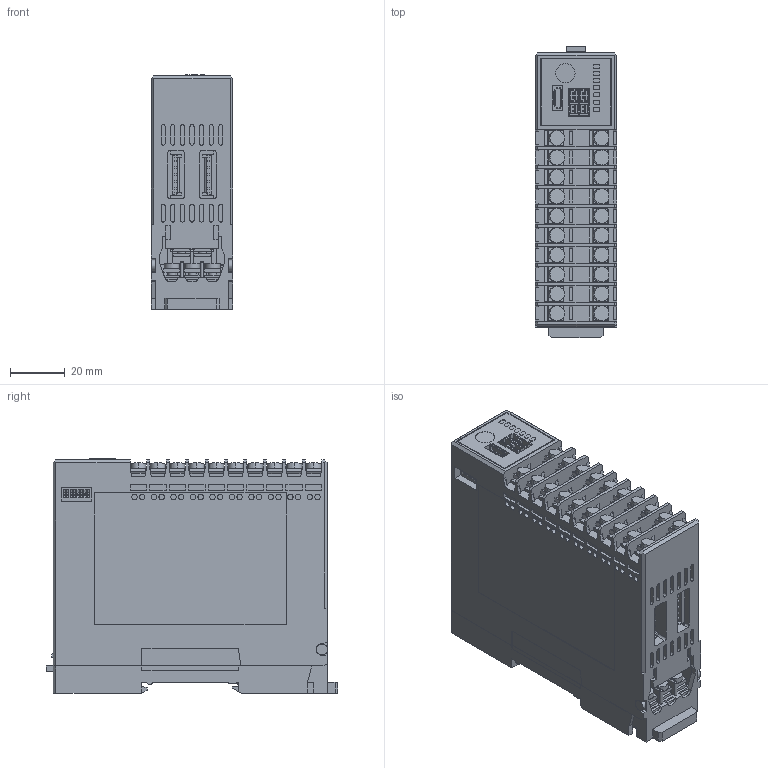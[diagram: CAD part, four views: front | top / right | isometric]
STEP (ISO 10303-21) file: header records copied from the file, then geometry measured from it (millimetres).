
FILE_DESCRIPTION (( 'STEP AP203' ), '1' );
FILE_NAME ('QTC1-4PT_230515.STEP', '2023-05-15T06:22:44', ( '' ), ( '' ), 'SwSTEP 2.0', 'SolidWorks 2022', '' );
FILE_SCHEMA (( 'CONFIG_CONTROL_DESIGN' ));
Products named in the file (1): QTC1-4PT_230515
Bounding box: 29.8 x 106.3 x 85.6 mm (x, y, z)
Volume: 224560.8 mm3; surface area: 48450.7 mm2
Topology: 21 solids, 21 shells, 2128 faces, 5462 edges, 3612 vertices
Faces by surface type: plane 1701, cylinder 423, torus 4
Entity records: 63909 total; most frequent: CARTESIAN_POINT 11299, ORIENTED_EDGE 10924, DIRECTION 10482, EDGE_CURVE 5462, VECTOR 4636, LINE 4636, VERTEX_POINT 3612, AXIS2_PLACEMENT_3D 2923
